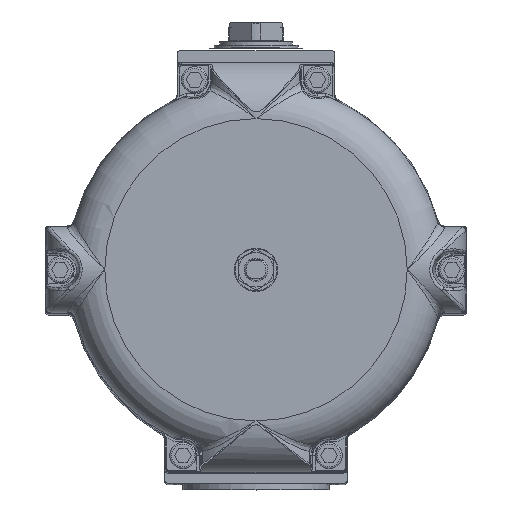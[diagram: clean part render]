
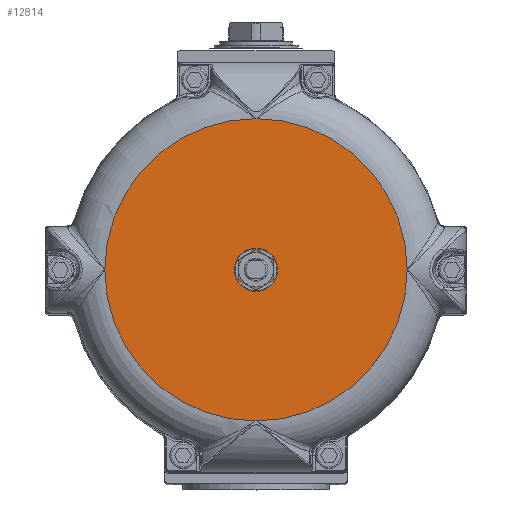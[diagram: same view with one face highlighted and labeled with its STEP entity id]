
A CAD part, top view. The second image highlights one B-rep face of the part: STEP entity #12814.
In plain terms, the highlighted planar face has unit normal (0, 0, 1).
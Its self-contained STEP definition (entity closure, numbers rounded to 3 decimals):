
#6447=CARTESIAN_POINT('',(0.,103.409,309.0));
#6448=VERTEX_POINT('',#6447);
#6468=CARTESIAN_POINT('',(103.409,0.,309.0));
#6469=VERTEX_POINT('',#6468);
#6470=CARTESIAN_POINT('',(0.,0.,309.0));
#6471=DIRECTION('',(0.0,0.0,1.0));
#6472=DIRECTION('',(-1.0,0.0,0.0));
#6473=AXIS2_PLACEMENT_3D('',#6470,#6471,#6472);
#6474=CIRCLE('',#6473,103.409);
#6475=EDGE_CURVE('',#6469,#6448,#6474,.T.);
#6887=CARTESIAN_POINT('',(0.,-103.409,309.0));
#6888=VERTEX_POINT('',#6887);
#6889=CARTESIAN_POINT('',(0.,0.,309.0));
#6890=DIRECTION('',(0.0,0.0,1.0));
#6891=DIRECTION('',(-1.0,0.0,0.0));
#6892=AXIS2_PLACEMENT_3D('',#6889,#6890,#6891);
#6893=CIRCLE('',#6892,103.409);
#6894=EDGE_CURVE('',#6888,#6469,#6893,.T.);
#8307=CARTESIAN_POINT('',(-103.409,0.,309.0));
#8308=VERTEX_POINT('',#8307);
#8309=CARTESIAN_POINT('',(0.,0.,309.0));
#8310=DIRECTION('',(0.0,0.0,1.0));
#8311=DIRECTION('',(-1.0,0.0,0.0));
#8312=AXIS2_PLACEMENT_3D('',#8309,#8310,#8311);
#8313=CIRCLE('',#8312,103.409);
#8314=EDGE_CURVE('',#6448,#8308,#8313,.T.);
#11801=CARTESIAN_POINT('',(0.,0.,309.0));
#11802=DIRECTION('',(0.0,0.0,1.0));
#11803=DIRECTION('',(-1.0,0.0,0.0));
#11804=AXIS2_PLACEMENT_3D('',#11801,#11802,#11803);
#11805=CIRCLE('',#11804,103.409);
#11806=EDGE_CURVE('',#8308,#6888,#11805,.T.);
#12792=CARTESIAN_POINT('',(-51.704,0.,309.0));
#12793=DIRECTION('',(0.0,0.0,1.0));
#12794=DIRECTION('',(0.0,-1.0,0.0));
#12795=AXIS2_PLACEMENT_3D('',#12792,#12793,#12794);
#12796=PLANE('',#12795);
#12797=ORIENTED_EDGE('',*,*,#6475,.T.);
#12798=ORIENTED_EDGE('',*,*,#8314,.T.);
#12799=ORIENTED_EDGE('',*,*,#11806,.T.);
#12800=ORIENTED_EDGE('',*,*,#6894,.T.);
#12801=EDGE_LOOP('',(#12797,#12798,#12799,#12800));
#12802=FACE_OUTER_BOUND('',#12801,.T.);
#12803=CARTESIAN_POINT('',(-8.647,0.,309.0));
#12804=VERTEX_POINT('',#12803);
#12805=CARTESIAN_POINT('',(0.,0.,309.0));
#12806=DIRECTION('',(0.0,0.0,-1.0));
#12807=DIRECTION('',(1.0,0.0,0.0));
#12808=AXIS2_PLACEMENT_3D('',#12805,#12806,#12807);
#12809=CIRCLE('',#12808,8.647);
#12810=EDGE_CURVE('',#12804,#12804,#12809,.T.);
#12811=ORIENTED_EDGE('',*,*,#12810,.T.);
#12812=EDGE_LOOP('',(#12811));
#12813=FACE_BOUND('',#12812,.T.);
#12814=ADVANCED_FACE('',(#12802,#12813),#12796,.T.);
